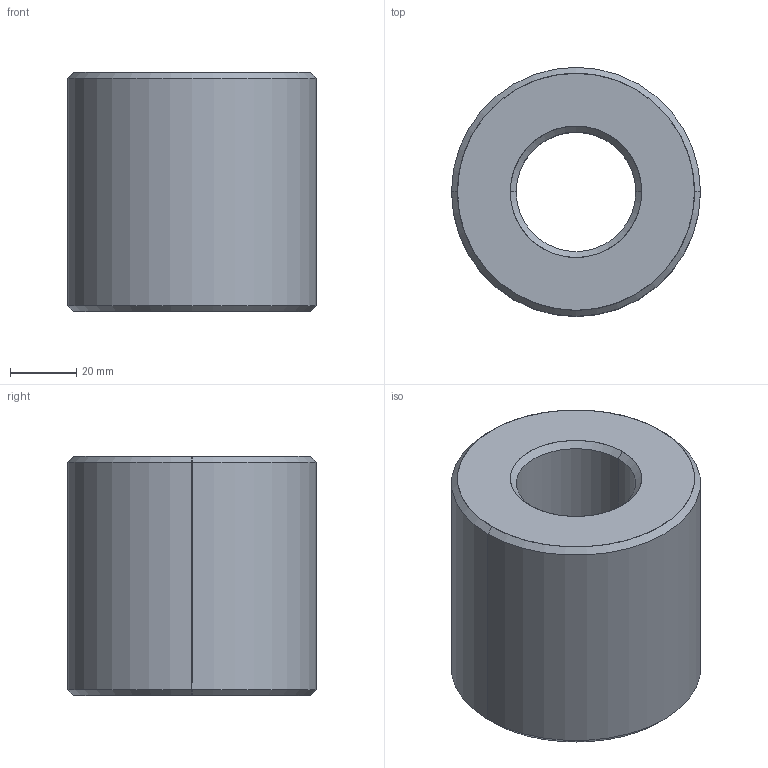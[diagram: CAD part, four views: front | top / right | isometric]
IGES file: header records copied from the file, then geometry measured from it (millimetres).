
Start section: SolidWorks IGES file using analytic representation for surfaces
Global section: file name: C:\Users\ianosborn\Desktop\L1330_v2\L1330_v2_20241024_IGES\L1330.R36-12.igs; native system: SolidWorks 2019; preprocessor: SolidWorks 2019; author: IanOsborn; date: 241024.102912; units: millimetre
Bounding box: 75 x 75 x 72 mm (x, y, z)
Surface area: 31172.2 mm2 (no closed solid volume)
Topology: 0 solids, 0 shells, 14 faces, 304 edges, 304 vertices
Faces by surface type: revolution 12, bspline 2
